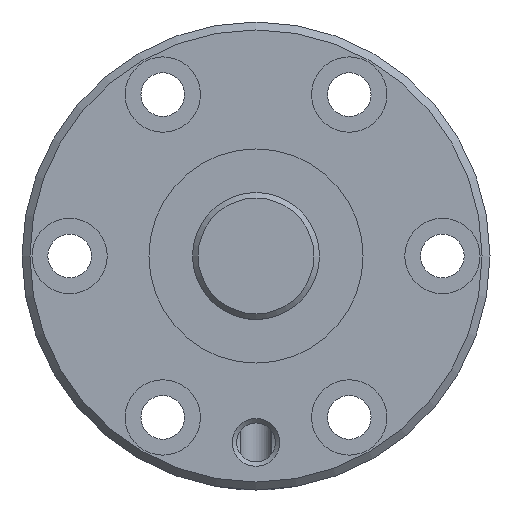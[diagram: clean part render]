
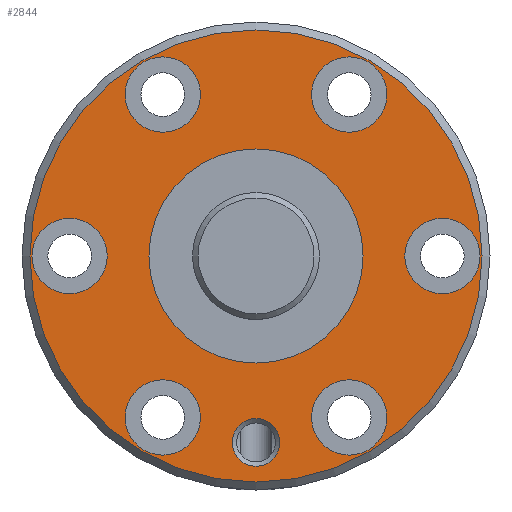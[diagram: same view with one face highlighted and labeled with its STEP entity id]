
A CAD part, left-side view. The second image highlights one B-rep face of the part: STEP entity #2844.
In plain terms, the highlighted planar face has unit normal (-1, 0, 0).
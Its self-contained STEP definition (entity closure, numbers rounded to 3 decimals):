
#774=ORIENTED_EDGE('',*,*,#1559,.T.);
#775=ORIENTED_EDGE('',*,*,#1560,.T.);
#776=ORIENTED_EDGE('',*,*,#1561,.T.);
#777=ORIENTED_EDGE('',*,*,#1562,.T.);
#778=ORIENTED_EDGE('',*,*,#1563,.T.);
#779=ORIENTED_EDGE('',*,*,#1564,.T.);
#780=ORIENTED_EDGE('',*,*,#1565,.T.);
#781=ORIENTED_EDGE('',*,*,#1566,.T.);
#782=ORIENTED_EDGE('',*,*,#1558,.F.);
#1558=EDGE_CURVE('',#1948,#1948,#2138,.T.);
#1559=EDGE_CURVE('',#1949,#1949,#2139,.T.);
#1560=EDGE_CURVE('',#1950,#1950,#2140,.F.);
#1561=EDGE_CURVE('',#1951,#1951,#2141,.T.);
#1562=EDGE_CURVE('',#1952,#1952,#2142,.T.);
#1563=EDGE_CURVE('',#1953,#1953,#2143,.T.);
#1564=EDGE_CURVE('',#1954,#1954,#2144,.T.);
#1565=EDGE_CURVE('',#1955,#1955,#2145,.T.);
#1566=EDGE_CURVE('',#1956,#1956,#2146,.T.);
#1948=VERTEX_POINT('',#4563);
#1949=VERTEX_POINT('',#4566);
#1950=VERTEX_POINT('',#4568);
#1951=VERTEX_POINT('',#4570);
#1952=VERTEX_POINT('',#4572);
#1953=VERTEX_POINT('',#4574);
#1954=VERTEX_POINT('',#4576);
#1955=VERTEX_POINT('',#4578);
#1956=VERTEX_POINT('',#4580);
#2138=CIRCLE('',#3073,28.5);
#2139=CIRCLE('',#3075,13.5);
#2140=CIRCLE('',#3076,4.75);
#2141=CIRCLE('',#3077,3.);
#2142=CIRCLE('',#3078,4.75);
#2143=CIRCLE('',#3079,4.75);
#2144=CIRCLE('',#3080,4.75);
#2145=CIRCLE('',#3081,4.75);
#2146=CIRCLE('',#3082,4.75);
#2275=EDGE_LOOP('',(#774));
#2276=EDGE_LOOP('',(#775));
#2277=EDGE_LOOP('',(#776));
#2278=EDGE_LOOP('',(#777));
#2279=EDGE_LOOP('',(#778));
#2280=EDGE_LOOP('',(#779));
#2281=EDGE_LOOP('',(#780));
#2282=EDGE_LOOP('',(#781));
#2283=EDGE_LOOP('',(#782));
#2511=FACE_BOUND('',#2275,.T.);
#2512=FACE_BOUND('',#2276,.T.);
#2513=FACE_BOUND('',#2277,.T.);
#2514=FACE_BOUND('',#2278,.T.);
#2515=FACE_BOUND('',#2279,.T.);
#2516=FACE_BOUND('',#2280,.T.);
#2517=FACE_BOUND('',#2281,.T.);
#2518=FACE_BOUND('',#2282,.T.);
#2519=FACE_BOUND('',#2283,.T.);
#2724=PLANE('',#3074);
#2844=ADVANCED_FACE('',(#2511,#2512,#2513,#2514,#2515,#2516,#2517,#2518,
#2519),#2724,.T.);
#3073=AXIS2_PLACEMENT_3D('',#4562,#3527,#3528);
#3074=AXIS2_PLACEMENT_3D('',#4564,#3529,#3530);
#3075=AXIS2_PLACEMENT_3D('',#4565,#3531,#3532);
#3076=AXIS2_PLACEMENT_3D('',#4567,#3533,#3534);
#3077=AXIS2_PLACEMENT_3D('',#4569,#3535,#3536);
#3078=AXIS2_PLACEMENT_3D('',#4571,#3537,#3538);
#3079=AXIS2_PLACEMENT_3D('',#4573,#3539,#3540);
#3080=AXIS2_PLACEMENT_3D('',#4575,#3541,#3542);
#3081=AXIS2_PLACEMENT_3D('',#4577,#3543,#3544);
#3082=AXIS2_PLACEMENT_3D('',#4579,#3545,#3546);
#3527=DIRECTION('',(1.,0.,0.));
#3528=DIRECTION('',(0.,0.,-1.));
#3529=DIRECTION('',(-1.,0.,0.));
#3530=DIRECTION('',(0.,0.,1.));
#3531=DIRECTION('',(1.,0.,0.));
#3532=DIRECTION('',(0.,0.,-1.));
#3533=DIRECTION('',(-1.,0.,0.));
#3534=DIRECTION('',(0.,0.,1.));
#3535=DIRECTION('',(1.,0.,0.));
#3536=DIRECTION('',(0.,0.,-1.));
#3537=DIRECTION('',(1.,0.,0.));
#3538=DIRECTION('',(0.,0.,-1.));
#3539=DIRECTION('',(1.,0.,0.));
#3540=DIRECTION('',(0.,0.,-1.));
#3541=DIRECTION('',(1.,0.,0.));
#3542=DIRECTION('',(0.,0.,-1.));
#3543=DIRECTION('',(1.,0.,0.));
#3544=DIRECTION('',(0.,0.,-1.));
#3545=DIRECTION('',(1.,0.,0.));
#3546=DIRECTION('',(0.,0.,-1.));
#4562=CARTESIAN_POINT('',(0.,0.,0.));
#4563=CARTESIAN_POINT('',(0.,0.,-28.5));
#4564=CARTESIAN_POINT('',(0.,28.5,0.));
#4565=CARTESIAN_POINT('',(0.,0.,0.));
#4566=CARTESIAN_POINT('',(0.,0.,-13.5));
#4567=CARTESIAN_POINT('',(0.,23.5,0.));
#4568=CARTESIAN_POINT('',(0.,23.5,4.75));
#4569=CARTESIAN_POINT('',(0.,0.,-23.5));
#4570=CARTESIAN_POINT('',(0.,0.,-26.5));
#4571=CARTESIAN_POINT('',(0.,11.75,20.352));
#4572=CARTESIAN_POINT('',(0.,11.75,15.602));
#4573=CARTESIAN_POINT('',(0.,-11.75,-20.352));
#4574=CARTESIAN_POINT('',(0.,-11.75,-25.102));
#4575=CARTESIAN_POINT('',(0.,-11.75,20.352));
#4576=CARTESIAN_POINT('',(0.,-11.75,15.602));
#4577=CARTESIAN_POINT('',(0.,11.75,-20.352));
#4578=CARTESIAN_POINT('',(0.,11.75,-25.102));
#4579=CARTESIAN_POINT('',(0.,-23.5,0.));
#4580=CARTESIAN_POINT('',(0.,-23.5,-4.75));
